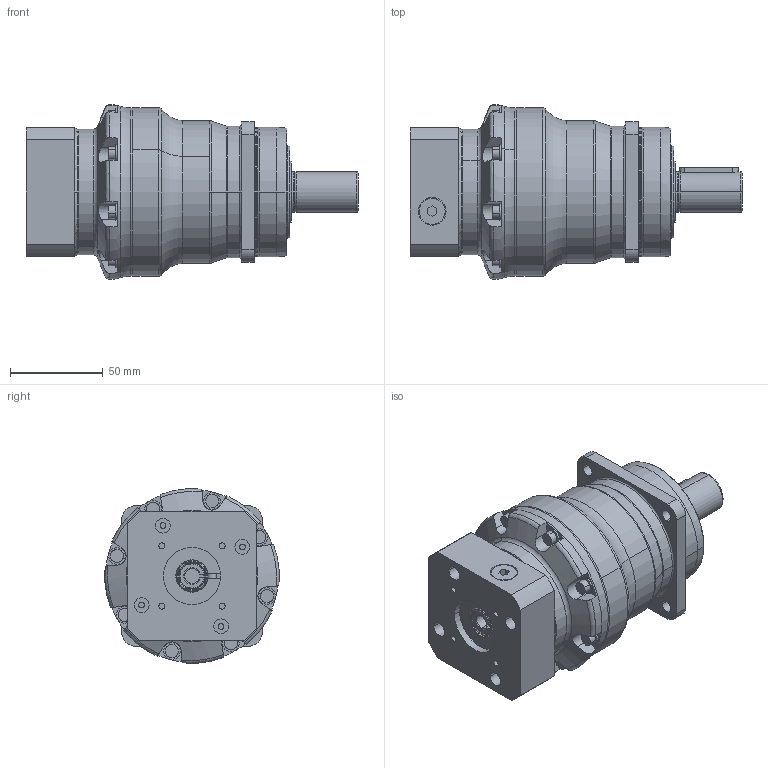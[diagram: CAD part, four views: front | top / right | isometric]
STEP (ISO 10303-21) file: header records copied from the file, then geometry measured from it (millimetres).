
FILE_DESCRIPTION(('STEP AP214'),'1');
FILE_NAME('20170313_131649586.stp','2017-03-13T12:16:50',(''),(''),'XStep 1.0','it-motive AG (itm_Acis_A0018_00R.dll)',' ');
FILE_SCHEMA(('automotive_design'));
Length unit declared in the file: millimetre
Products named in the file (7): Abtrieb_SP_m060; Antrieb_MF2_m060_C; 1; Abtriebswelle_SP_m060_1; ADP; vs_1_point; DSH
Bounding box: 179.45 x 94.38 x 94.38 mm (x, y, z)
Volume: 685480 mm3; surface area: 96197.9 mm2
Topology: 7 solids, 7 shells, 399 faces, 962 edges, 615 vertices
Faces by surface type: cylinder 158, plane 121, torus 84, cone 36
Entity records: 16639 total; most frequent: CARTESIAN_POINT 3670, DIRECTION 2184, ORIENTED_EDGE 1916, EDGE_CURVE 958, AXIS2_PLACEMENT_3D 937, VERTEX_POINT 615, CIRCLE 531, EDGE_LOOP 467
